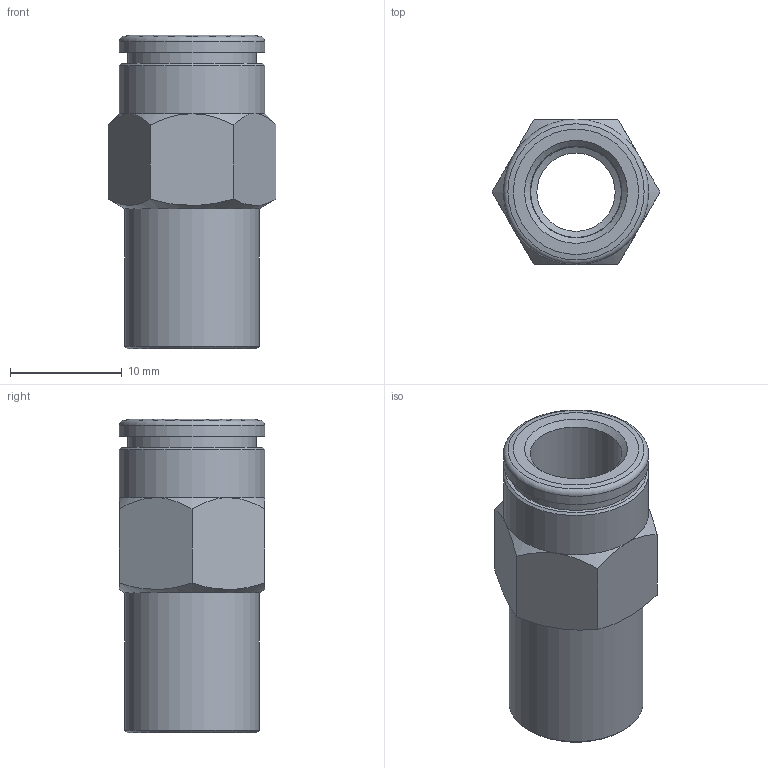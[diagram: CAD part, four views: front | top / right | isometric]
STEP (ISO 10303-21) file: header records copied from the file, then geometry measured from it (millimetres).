
FILE_DESCRIPTION(('Bauteilbeschreibung','HiCAD-Model','HiCAD-STEP-TRANSLATION','Bauteilbeschreibung'),'2;1');
FILE_NAME('B:/ABGLEICH/ZEICHNUNGEN/STEP FÜR INTERNET/STEP/200207_IPSO_02_8_1-8.STP','2011-07-15T09:56:16+00:00',('Konstrukteur'),('Konstrukteur Firma GmbH'),' HiCAD neXt 2008, Step 3.1.1401.2J ','HiCAD neXt 2008','confidential');
FILE_SCHEMA(('AUTOMOTIVE_DESIGN { 1 2 10303 214 0 1 1 1 }'));
Length unit declared in the file: millimetre
Products named in the file (5): A00207_IPSO_02_8_1_8; R200207_N; R2002070N; G 1_8; DR8_1_NEU
Assembly tree (4 placements, depth 3):
  A00207_IPSO_02_8_1_8
    R200207_N
    R2002070N
      G 1_8
    DR8_1_NEU
Bounding box: 15.01 x 13 x 28 mm (x, y, z)
Volume: 1782.3 mm3; surface area: 3046.8 mm2
Topology: 3 solids, 3 shells, 49 faces, 102 edges, 61 vertices
Faces by surface type: cone 20, cylinder 14, plane 14, torus 1
Full cylindrical faces by diameter (mm): 7 x1, 8.1 x1, 8.2 x1, 8.566 x2, 9.728 x2, 10.1 x1, 11 x1, 11.5 x1, 11.6 x1, 12 x1, 13 x2
Entity records: 1534 total; most frequent: CARTESIAN_POINT 213, DIRECTION 204, ORIENTED_EDGE 132, AXIS2_PLACEMENT_3D 99, EDGE_LOOP 86, COLOUR_RGB 69, PRESENTATION_STYLE_ASSIGNMENT 69, CURVE_STYLE 66
